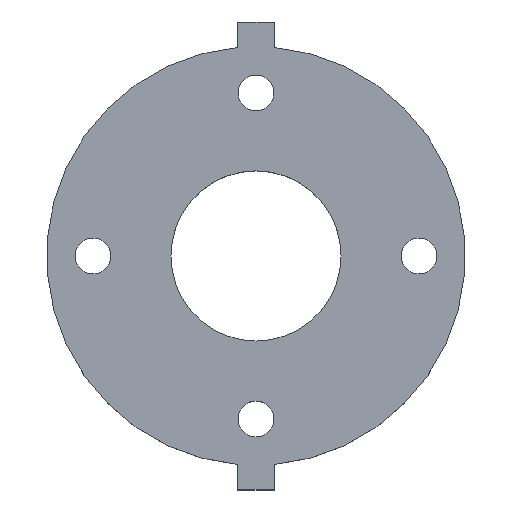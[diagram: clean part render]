
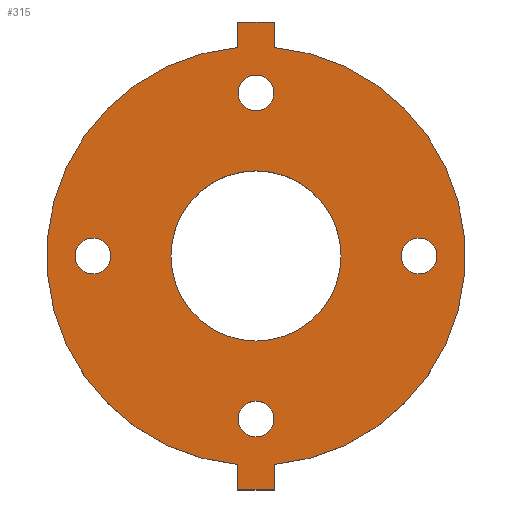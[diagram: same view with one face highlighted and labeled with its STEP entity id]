
A CAD part, top view. The second image highlights one B-rep face of the part: STEP entity #315.
In plain terms, the highlighted planar face has unit normal (0, 0, 1).
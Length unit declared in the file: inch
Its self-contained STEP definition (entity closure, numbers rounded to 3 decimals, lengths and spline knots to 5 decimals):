
#14=FACE_BOUND('',#61,.T.);
#15=FACE_BOUND('',#62,.T.);
#16=FACE_BOUND('',#63,.T.);
#17=FACE_BOUND('',#64,.T.);
#18=FACE_BOUND('',#65,.T.);
#30=PLANE('',#364);
#45=FACE_OUTER_BOUND('',#60,.T.);
#60=EDGE_LOOP('',(#253,#254,#255,#256,#257,#258,#259,#260));
#61=EDGE_LOOP('',(#261));
#62=EDGE_LOOP('',(#262));
#63=EDGE_LOOP('',(#263));
#64=EDGE_LOOP('',(#264));
#65=EDGE_LOOP('',(#265));
#83=LINE('',#505,#108);
#85=LINE('',#510,#110);
#88=LINE('',#514,#113);
#91=LINE('',#522,#116);
#94=LINE('',#526,#119);
#96=LINE('',#529,#121);
#108=VECTOR('',#423,0.3937);
#110=VECTOR('',#427,0.3937);
#113=VECTOR('',#432,0.3937);
#116=VECTOR('',#437,0.3937);
#119=VECTOR('',#442,0.3937);
#121=VECTOR('',#446,0.3937);
#122=CIRCLE('',#338,0.315);
#124=CIRCLE('',#341,0.315);
#126=CIRCLE('',#344,0.315);
#128=CIRCLE('',#347,0.315);
#131=CIRCLE('',#351,1.5);
#133=CIRCLE('',#354,3.69);
#134=CIRCLE('',#356,3.69);
#136=VERTEX_POINT('',#453);
#138=VERTEX_POINT('',#459);
#140=VERTEX_POINT('',#465);
#142=VERTEX_POINT('',#471);
#145=VERTEX_POINT('',#479);
#147=VERTEX_POINT('',#484);
#149=VERTEX_POINT('',#488);
#151=VERTEX_POINT('',#493);
#152=VERTEX_POINT('',#495);
#155=VERTEX_POINT('',#503);
#157=VERTEX_POINT('',#509);
#160=VERTEX_POINT('',#519);
#161=VERTEX_POINT('',#521);
#162=EDGE_CURVE('',#136,#136,#122,.T.);
#165=EDGE_CURVE('',#138,#138,#124,.T.);
#168=EDGE_CURVE('',#140,#140,#126,.T.);
#171=EDGE_CURVE('',#142,#142,#128,.T.);
#176=EDGE_CURVE('',#145,#145,#131,.T.);
#180=EDGE_CURVE('',#147,#149,#133,.T.);
#182=EDGE_CURVE('',#152,#151,#134,.T.);
#187=EDGE_CURVE('',#149,#155,#83,.T.);
#189=EDGE_CURVE('',#157,#152,#85,.T.);
#192=EDGE_CURVE('',#155,#157,#88,.T.);
#195=EDGE_CURVE('',#161,#160,#91,.T.);
#198=EDGE_CURVE('',#151,#161,#94,.T.);
#200=EDGE_CURVE('',#160,#147,#96,.T.);
#253=ORIENTED_EDGE('',*,*,#200,.T.);
#254=ORIENTED_EDGE('',*,*,#180,.T.);
#255=ORIENTED_EDGE('',*,*,#187,.T.);
#256=ORIENTED_EDGE('',*,*,#192,.T.);
#257=ORIENTED_EDGE('',*,*,#189,.T.);
#258=ORIENTED_EDGE('',*,*,#182,.T.);
#259=ORIENTED_EDGE('',*,*,#198,.T.);
#260=ORIENTED_EDGE('',*,*,#195,.T.);
#261=ORIENTED_EDGE('',*,*,#162,.T.);
#262=ORIENTED_EDGE('',*,*,#165,.T.);
#263=ORIENTED_EDGE('',*,*,#168,.T.);
#264=ORIENTED_EDGE('',*,*,#171,.T.);
#265=ORIENTED_EDGE('',*,*,#176,.T.);
#315=ADVANCED_FACE('',(#45,#14,#15,#16,#17,#18),#30,.T.);
#338=AXIS2_PLACEMENT_3D('',#454,#370,#371);
#341=AXIS2_PLACEMENT_3D('',#460,#377,#378);
#344=AXIS2_PLACEMENT_3D('',#466,#384,#385);
#347=AXIS2_PLACEMENT_3D('',#472,#391,#392);
#351=AXIS2_PLACEMENT_3D('',#481,#401,#402);
#354=AXIS2_PLACEMENT_3D('',#490,#409,#410);
#356=AXIS2_PLACEMENT_3D('',#496,#414,#415);
#364=AXIS2_PLACEMENT_3D('',#530,#447,#448);
#370=DIRECTION('center_axis',(0.,0.,-1.));
#371=DIRECTION('ref_axis',(-1.,0.,0.));
#377=DIRECTION('center_axis',(0.,0.,-1.));
#378=DIRECTION('ref_axis',(0.,1.,0.));
#384=DIRECTION('center_axis',(0.,0.,-1.));
#385=DIRECTION('ref_axis',(1.,0.,0.));
#391=DIRECTION('center_axis',(0.,0.,-1.));
#392=DIRECTION('ref_axis',(0.,-1.,0.));
#401=DIRECTION('center_axis',(0.,0.,-1.));
#402=DIRECTION('ref_axis',(0.,-1.,0.));
#409=DIRECTION('center_axis',(0.,0.,1.));
#410=DIRECTION('ref_axis',(0.,1.,0.));
#414=DIRECTION('center_axis',(0.,0.,1.));
#415=DIRECTION('ref_axis',(0.,1.,0.));
#423=DIRECTION('',(0.,-1.,0.));
#427=DIRECTION('',(0.,1.,0.));
#432=DIRECTION('',(1.,0.,0.));
#437=DIRECTION('',(-1.,0.,0.));
#442=DIRECTION('',(0.,1.,0.));
#446=DIRECTION('',(0.,-1.,0.));
#447=DIRECTION('center_axis',(0.,0.,1.));
#448=DIRECTION('ref_axis',(0.,1.,0.));
#453=CARTESIAN_POINT('',(0.315,2.875,0.88));
#454=CARTESIAN_POINT('Origin',(0.,2.875,0.88));
#459=CARTESIAN_POINT('',(2.875,-0.315,0.88));
#460=CARTESIAN_POINT('Origin',(2.875,0.,0.88));
#465=CARTESIAN_POINT('',(-0.315,-2.875,0.88));
#466=CARTESIAN_POINT('Origin',(0.,-2.875,0.88));
#471=CARTESIAN_POINT('',(-2.875,0.315,0.88));
#472=CARTESIAN_POINT('Origin',(-2.875,0.,0.88));
#479=CARTESIAN_POINT('',(0.,1.5,0.88));
#481=CARTESIAN_POINT('Origin',(0.,0.,0.88));
#484=CARTESIAN_POINT('',(-0.32,3.6761,0.88));
#488=CARTESIAN_POINT('',(-0.32,-3.6761,0.88));
#490=CARTESIAN_POINT('Origin',(0.,0.,0.88));
#493=CARTESIAN_POINT('',(0.32,3.6761,0.88));
#495=CARTESIAN_POINT('',(0.32,-3.6761,0.88));
#496=CARTESIAN_POINT('Origin',(0.,0.,0.88));
#503=CARTESIAN_POINT('',(-0.32,-4.125,0.88));
#505=CARTESIAN_POINT('',(-0.32,-3.6761,0.88));
#509=CARTESIAN_POINT('',(0.32,-4.125,0.88));
#510=CARTESIAN_POINT('',(0.32,-4.125,0.88));
#514=CARTESIAN_POINT('',(-0.32,-4.125,0.88));
#519=CARTESIAN_POINT('',(-0.32,4.125,0.88));
#521=CARTESIAN_POINT('',(0.32,4.125,0.88));
#522=CARTESIAN_POINT('',(0.32,4.125,0.88));
#526=CARTESIAN_POINT('',(0.32,3.6761,0.88));
#529=CARTESIAN_POINT('',(-0.32,4.125,0.88));
#530=CARTESIAN_POINT('Origin',(0.,3.92048,0.88));
